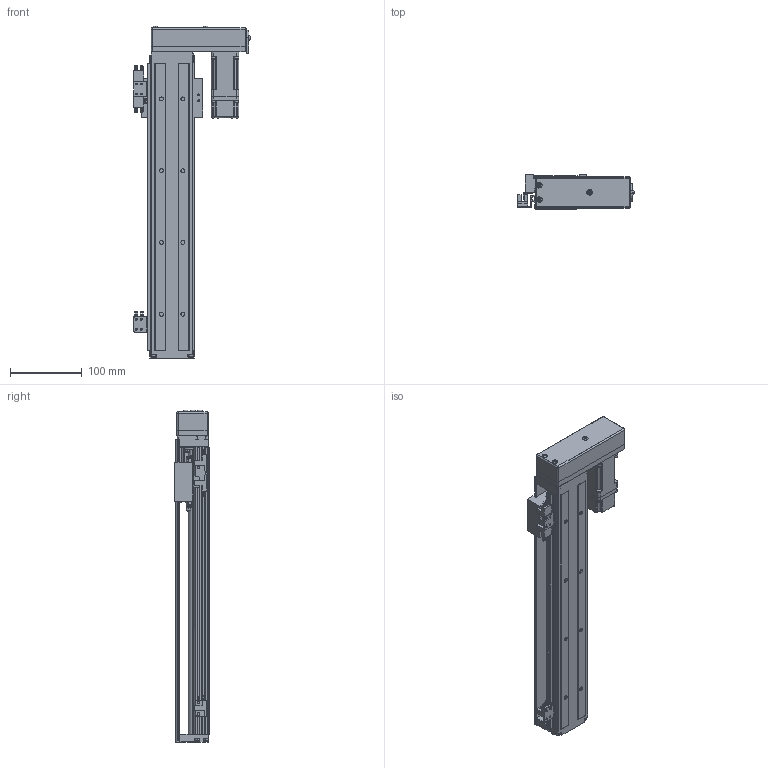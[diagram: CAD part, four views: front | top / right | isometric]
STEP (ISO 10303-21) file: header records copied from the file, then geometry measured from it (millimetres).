
FILE_DESCRIPTION (( 'STEP AP214' ), '1' );
FILE_NAME ('SFKK60-400A1-HL0C.STEP', '2022-05-03T07:54:54', ( '微软用户' ), ( '微软中国' ), 'SwSTEP 2.0', 'SolidWorks 2018', '' );
FILE_SCHEMA (( 'AUTOMOTIVE_DESIGN' ));
Length unit declared in the file: millimetre
Products named in the file (12): 蚐郲; SX674嫖萇羲壽; SFKK60-A1-C; 开关固定座：KK-674S2-F; SFKK60-400A1-HL0C; 极限轨道与开关固定座组合_400; SFKK60-H0_400; SFKK60-H0-P10侂狟100W耜蚾; SFKK60-LR 憤癹寢耋_400; 带盖挡光片：KK-60-S2-D1; hexagon socket countersunk head screws gb_GB_FASTENER_SCREWS_HSCHS M3X8-N; SFKK-60-CU_400
Assembly tree (17 placements, depth 3):
  SFKK60-400A1-HL0C
    SFKK60-H0_400
    SFKK60-A1-C
    蚐郲
    SFKK-60-CU_400
    hexagon socket countersunk head screws gb_GB_FASTENER_SCREWS_HSCHS M3X8-N  x4
    带盖挡光片：KK-60-S2-D1
    极限轨道与开关固定座组合_400
      SFKK60-LR 憤癹寢耋_400
      开关固定座：KK-674S2-F  x2
    SX674嫖萇羲壽  x3
    SFKK60-H0-P10侂狟100W耜蚾
Bounding box: 162.2 x 48 x 462.7 mm (x, y, z)
Volume: 560419.4 mm3; surface area: 331482.5 mm2
Topology: 40 solids, 69 shells, 4254 faces, 10648 edges, 6588 vertices
Faces by surface type: cylinder 1653, plane 1494, cone 899, torus 91, bspline 91, sphere 26
Entity records: 167482 total; most frequent: CARTESIAN_POINT 29837, DIRECTION 21198, ORIENTED_EDGE 19996, EDGE_CURVE 10060, AXIS2_PLACEMENT_3D 7872, VERTEX_POINT 6291, LINE 5454, VECTOR 5454
